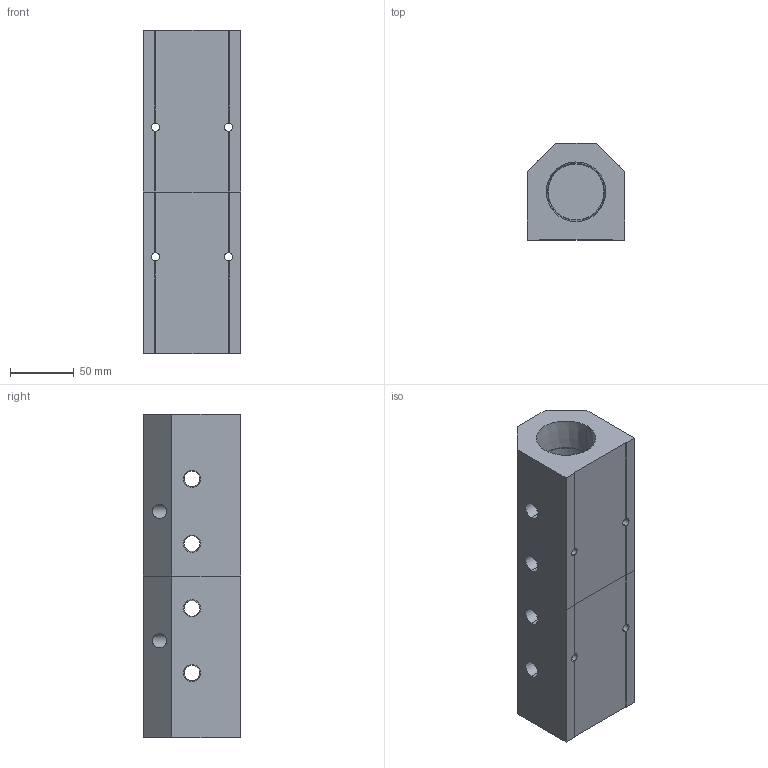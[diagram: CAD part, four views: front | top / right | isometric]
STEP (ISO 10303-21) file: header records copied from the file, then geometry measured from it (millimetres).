
FILE_DESCRIPTION (( 'STEP AP214' ), '1' );
FILE_NAME ('ALM4ACE-N4N24-254RB.step', '2022-02-07T07:52:03', ( '' ), ( '' ), 'SwSTEP 2.0', 'SolidWorks 2020', '' );
FILE_SCHEMA (( 'AUTOMOTIVE_DESIGN' ));
Length unit declared in the file: millimetre
Products named in the file (1): ALM4ACE-N4N24-254RB
Bounding box: 76.2 x 76.2 x 254 mm (x, y, z)
Volume: 916746.7 mm3; surface area: 137250.6 mm2
Topology: 2 solids, 2 shells, 372 faces, 990 edges, 652 vertices
Faces by surface type: plane 276, bspline 48, cone 28, cylinder 20
Entity records: 19292 total; most frequent: CARTESIAN_POINT 6799, ORIENTED_EDGE 1980, DIRECTION 1568, EDGE_CURVE 990, VECTOR 790, LINE 790, VERTEX_POINT 652, EDGE_LOOP 434
